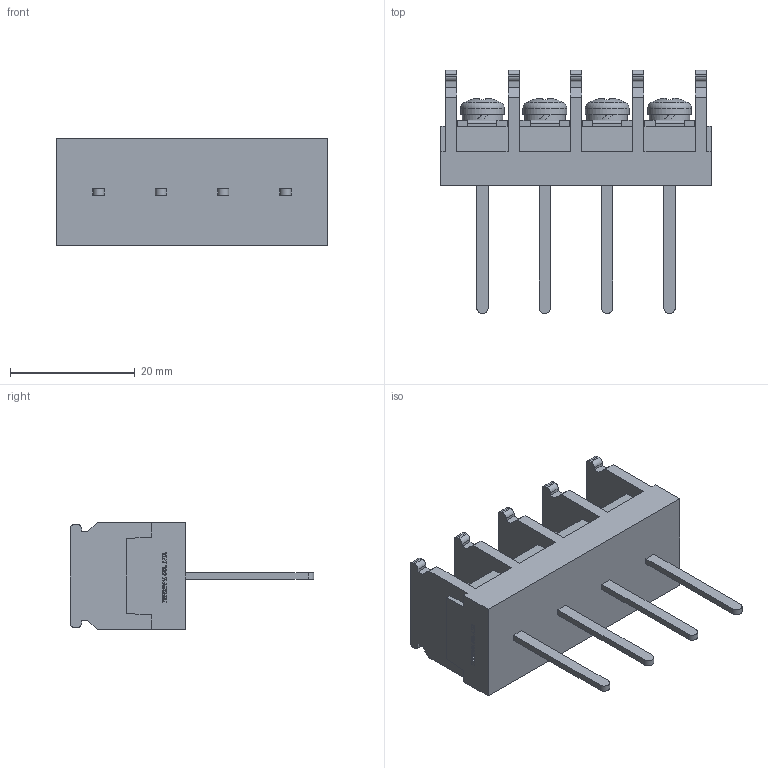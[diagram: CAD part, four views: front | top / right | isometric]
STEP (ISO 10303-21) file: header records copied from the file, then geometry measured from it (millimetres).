
FILE_DESCRIPTION(/* description */ ('Alibre Inc.'),/* implementation_level */ '2;1');
FILE_NAME(/* name */ 'export0',/* time_stamp */ '2015-10-17T17:06:39+09:00',/* author */ (''),/* organization */ (''),/* preprocessor_version */ 'ST-DEVELOPER v14',/* originating_system */ 'Alibre',/* authorisation */ '');
FILE_SCHEMA (('CONFIG_CONTROL_DESIGN'));
Length unit declared in the file: centimetre
Products named in the file (1): ID_1
Bounding box: 43.4 x 39 x 17 mm (x, y, z)
Volume: 8477.7 mm3; surface area: 5474.1 mm2
Topology: 1 solids, 17 shells, 676 faces, 1818 edges, 1208 vertices
Faces by surface type: plane 500, bspline 104, cylinder 44, cone 16, torus 8, sphere 4
Full cylindrical faces by diameter (mm): 4 x4, 6.5 x4, 7 x4
Entity records: 20502 total; most frequent: CARTESIAN_POINT 4715, ORIENTED_EDGE 3580, DIRECTION 2390, EDGE_CURVE 1790, VECTOR 1344, LINE 1344, VERTEX_POINT 1196, AXIS2_PLACEMENT_3D 767
